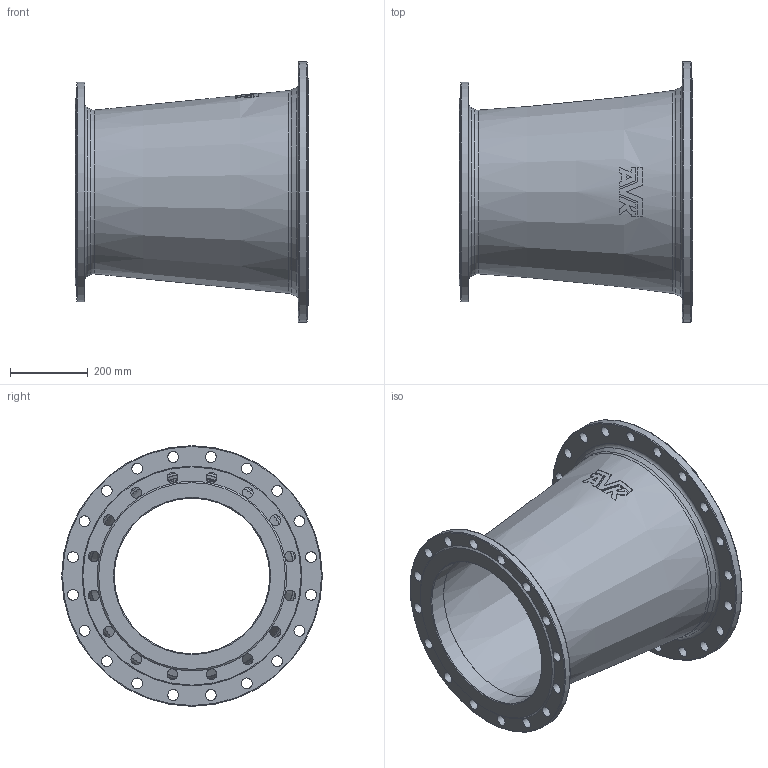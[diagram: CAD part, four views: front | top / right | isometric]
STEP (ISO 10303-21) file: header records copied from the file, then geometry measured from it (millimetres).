
FILE_DESCRIPTION (( 'STEP AP203' ), '1' );
FILE_NAME ('O_712_2210_DN500_DN400_0X_REV01.step', '2024-08-08T07:29:16', ( '' ), ( '' ), 'SwSTEP 2.0', 'SolidWorks 2022', '' );
FILE_SCHEMA (( 'CONFIG_CONTROL_DESIGN' ));
Length unit declared in the file: millimetre
Products named in the file (1): O_712_2210_DN500_DN400_0X_REV01
Bounding box: 600 x 670 x 670 mm (x, y, z)
Volume: 14852242 mm3; surface area: 2279066.2 mm2
Topology: 1 solids, 1 shells, 121 faces, 357 edges, 230 vertices
Faces by surface type: plane 57, cylinder 42, cone 12, torus 10
Full cylindrical faces by diameter (mm): 28 x36, 400 x1, 500 x1, 565 x1, 670 x1
Entity records: 3744 total; most frequent: CARTESIAN_POINT 763, DIRECTION 639, ORIENTED_EDGE 516, AXIS2_PLACEMENT_3D 301, EDGE_CURVE 258, EDGE_LOOP 245, VERTEX_POINT 189, CIRCLE 179
